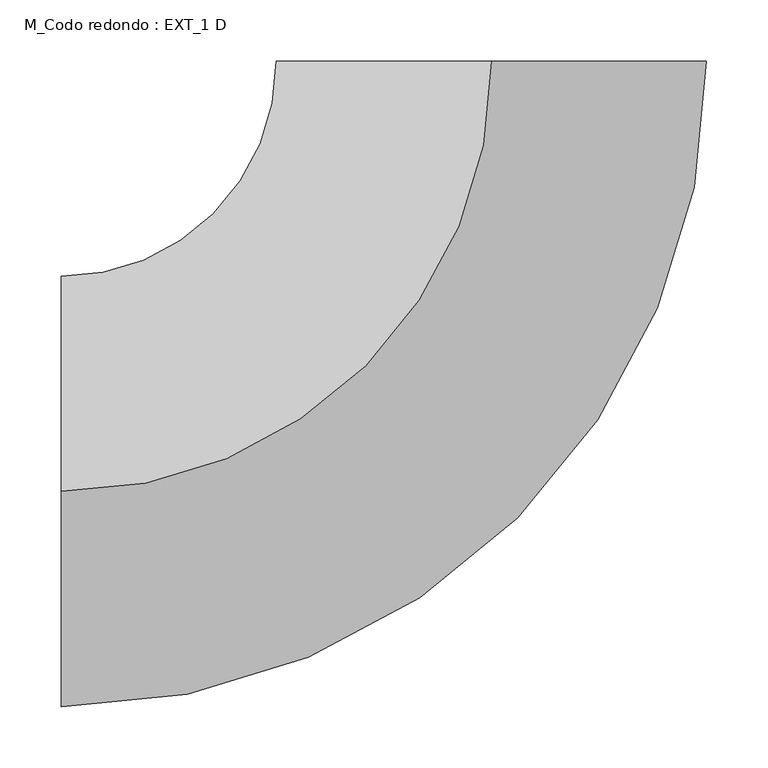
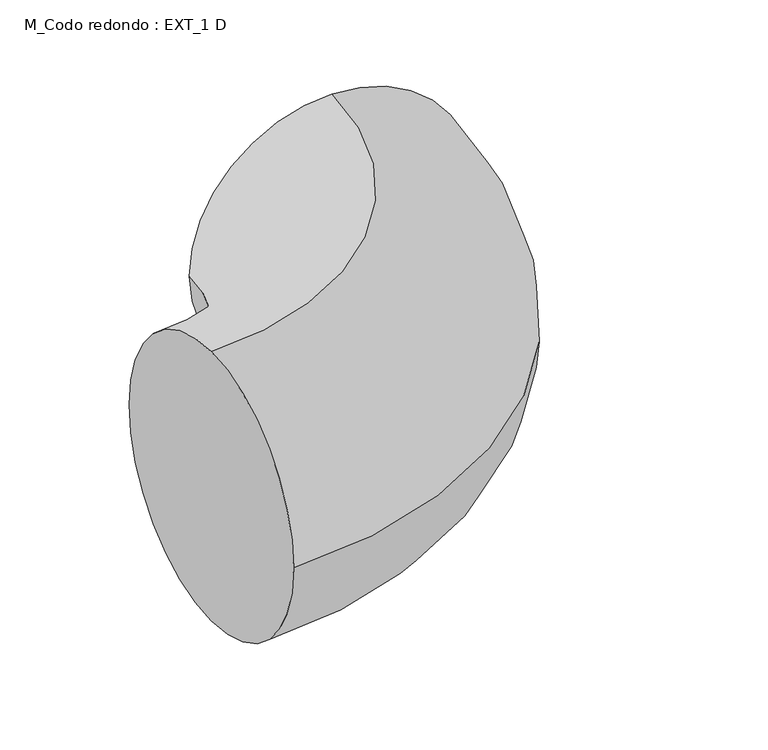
"""IFC4 building model written with IfcOpenShell, lengths in millimetres: duct fitting geometry, M_Codo redondo : EXT_1 D."""

from ifc_helpers import new_model, si_unit, point, frame, origin, place, context, project, spatial, circle_curve, ellipse_curve, trimmed, source, transform, mapped, element, save
from ifc_brep_helpers import plane_surface, revolved_surface, advanced_brep


def m_codo_redondo_ext_1_d_63cf0125(model_context):
    return source(origin(), model_context, "Body", "AdvancedBrep", [
        advanced_brep(
        [(-350.0, 0.0, 175.0), (-350.0, 175.0, 0.0), (-350.0, 0.0, -175.0), (-350.0, -175.0, 0.0), (0.0, 350.0, 175.0), (175.0, 350.0, 0.0), (0.0, 350.0, -175.0), (-175.0, 350.0, 0.0)],
        [
            (0, 1, circle_curve(frame((-350.0, 0.0, 0.0), z_axis=(-1.0, 0.0, 0.0), x_axis=(0.0, 1.0, 0.0)), 175.0)),
            (1, 2, circle_curve(frame((-350.0, 0.0, 0.0), z_axis=(-1.0, 0.0, 0.0), x_axis=(0.0, 1.0, 0.0)), 175.0)),
            (2, 3, circle_curve(frame((-350.0, 0.0, 0.0), z_axis=(-1.0, 0.0, 0.0), x_axis=(0.0, 1.0, 0.0)), 175.0)),
            (3, 0, circle_curve(frame((-350.0, 0.0, 0.0), z_axis=(-1.0, 0.0, 0.0), x_axis=(0.0, 1.0, 0.0)), 175.0)),
            (4, 5, circle_curve(frame((0.0, 350.0, 0.0), z_axis=(0.0, 1.0, 0.0), x_axis=(-1.0, 0.0, 0.0)), 175.0)),
            (5, 6, circle_curve(frame((0.0, 350.0, 0.0), z_axis=(0.0, 1.0, 0.0), x_axis=(-1.0, 0.0, 0.0)), 175.0)),
            (6, 7, circle_curve(frame((0.0, 350.0, 0.0), z_axis=(0.0, 1.0, 0.0), x_axis=(-1.0, 0.0, 0.0)), 175.0)),
            (7, 4, circle_curve(frame((0.0, 350.0, 0.0), z_axis=(0.0, 1.0, 0.0), x_axis=(-1.0, 0.0, 0.0)), 175.0)),
            (7, 1, circle_curve(frame((-350.0, 350.0, 0.0), z_axis=(0.0, 0.0, -1.0), x_axis=(0.0, -1.0, 0.0)), 175.0)),
            (0, 4, circle_curve(frame((-350.0, 350.0, 175.0), z_axis=(0.0, 0.0, 1.0), x_axis=(0.0, -1.0, 0.0)), 350.0)),
            (6, 2, circle_curve(frame((-350.0, 350.0, -175.0), z_axis=(0.0, 0.0, -1.0), x_axis=(0.0, -1.0, 0.0)), 350.0)),
            (5, 3, circle_curve(frame((-350.0, 350.0, 0.0), z_axis=(0.0, 0.0, -1.0), x_axis=(0.0, -1.0, 0.0)), 525.0)),
        ],
        [
            plane_surface(frame((-350.0, 0.0, 0.0), z_axis=(-1.0, 0.0, 0.0), x_axis=(0.0, 0.0, 1.0))),
            plane_surface(frame((0.0, 350.0, 0.0), z_axis=(0.0, 1.0, 0.0), x_axis=(0.0, 0.0, 1.0))),
            revolved_surface(trimmed(ellipse_curve(frame((-350.0, 0.0, 0.0), z_axis=(-1.0, 0.0, 0.0), x_axis=(0.0, 1.0, 0.0)), 175.0, 175.0), [point((-350.0, 0.0, 175.0))], [point((-350.0, 175.0, 0.0))], True, "CARTESIAN"), (-350.0, 350.0, 0.0), (0.0, 0.0, 1.0)),
            revolved_surface(trimmed(ellipse_curve(frame((-350.0, 0.0, 0.0), z_axis=(-1.0, 0.0, 0.0), x_axis=(0.0, 1.0, 0.0)), 175.0, 175.0), [point((-350.0, 175.0, 0.0))], [point((-350.0, 0.0, -175.0))], True, "CARTESIAN"), (-350.0, 350.0, 0.0), (0.0, 0.0, 1.0)),
            revolved_surface(trimmed(ellipse_curve(frame((-350.0, 0.0, 0.0), z_axis=(-1.0, 0.0, 0.0), x_axis=(0.0, 1.0, 0.0)), 175.0, 175.0), [point((-350.0, 0.0, -175.0))], [point((-350.0, -175.0, 0.0))], True, "CARTESIAN"), (-350.0, 350.0, 0.0), (0.0, 0.0, 1.0)),
            revolved_surface(trimmed(ellipse_curve(frame((-350.0, 0.0, 0.0), z_axis=(-1.0, 0.0, 0.0), x_axis=(0.0, 1.0, 0.0)), 175.0, 175.0), [point((-350.0, -175.0, 0.0))], [point((-350.0, 0.0, 175.0))], True, "CARTESIAN"), (-350.0, 350.0, 0.0), (0.0, 0.0, 1.0)),
        ],
        [
            (0, [[1, 2, 3, 4]]),
            (1, [[5, 6, 7, 8]]),
            (2, [[9, -1, 10, -8]]),
            (3, [[11, -2, -9, -7]]),
            (4, [[12, -3, -11, -6]]),
            (5, [[-10, -4, -12, -5]]),
        ],
    ),
    ])


if __name__ == "__main__":
    model = new_model("IFC4")
    model_context = context("Model", 3, world=origin())
    ifc_project = project(units=[si_unit("LENGTHUNIT", "METRE", prefix="MILLI")], contexts=[model_context])
    site = spatial("IfcSite", under=ifc_project)
    building = spatial("IfcBuilding", under=site)
    placement = place(None, origin())
    m_codo_redondo_ext_1_d_shape = m_codo_redondo_ext_1_d_63cf0125(model_context)
    element("IfcDuctFitting", 1, ObjectType="M_Codo redondo : EXT_1 D", at=placement, inside=building, context=model_context, shape_type="MappedRepresentation", body=[
        mapped(m_codo_redondo_ext_1_d_shape, transform((0.0, 0.0, 0.0), x_axis=(1.0, 0.0, 0.0), y_axis=(0.0, 1.0, 0.0), z_axis=(0.0, 0.0, 1.0))),
    ])
    save(model, "model.ifc")
